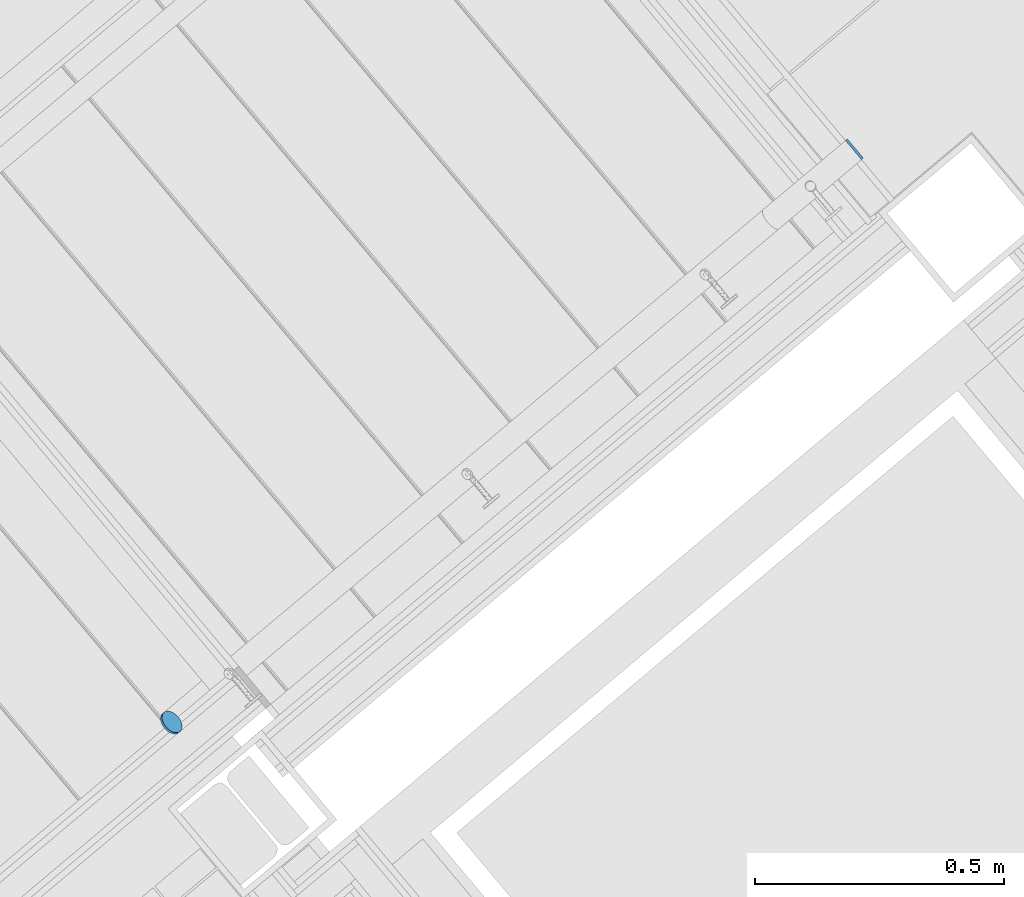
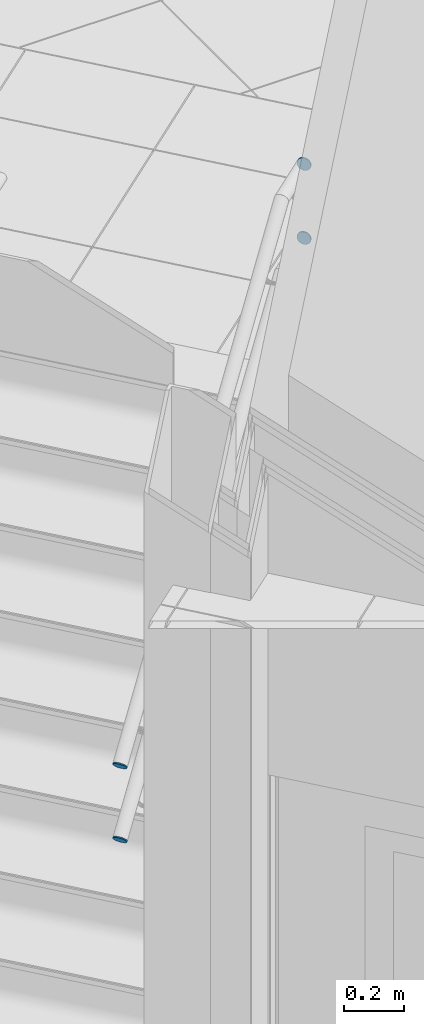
# One storey, part 2 of 338: 4 members, 2 elements without a shape of their own.
"""IFC2X3 building model written with IfcOpenShell, lengths in millimetres."""

from ifc_helpers import new_model, entity, si_unit, converted_unit, derived_unit, money_unit, direction, frame, origin_with_axes, place, context, subcontext, project, spatial, faceted_brep, source, transform, mapped, material, type_object, type_shapes, element, aggregate, save


model = new_model("IFC2X3")

# Units and contexts
model_context = context("Model", 3, precision=0.01, world=origin_with_axes(), true_north=direction((0.0, 1.0)))
plan_context = context("Plan", 3, precision=0.01, world=origin_with_axes(), true_north=direction((0.0, 1.0)))
body_context = subcontext(model_context, "Body", "Model", "MODEL_VIEW")
ifc_project = project(units=[si_unit("LENGTHUNIT", "METRE", prefix="MILLI"), si_unit("AREAUNIT", "SQUARE_METRE"), si_unit("VOLUMEUNIT", "CUBIC_METRE"), converted_unit("PLANEANGLEUNIT", "DEGREE", entity("IfcPlaneAngleMeasure", 0.0174532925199), si_unit("PLANEANGLEUNIT", "RADIAN"), dimensions=[0, 0, 0, 0, 0, 0, 0]), money_unit("EUR"), converted_unit("TIMEUNIT", "Year", entity("IfcTimeMeasure", 31556926.0), si_unit("TIMEUNIT", "SECOND"), dimensions=[0, 0, 1, 0, 0, 0, 0]), si_unit("MASSUNIT", "GRAM", prefix="KILO"), si_unit("THERMODYNAMICTEMPERATUREUNIT", "DEGREE_CELSIUS"), si_unit("LUMINOUSINTENSITYUNIT", "LUMEN"), si_unit("ENERGYUNIT", "JOULE", prefix="MEGA"), derived_unit("THERMALCONDUCTANCEUNIT", [(si_unit("POWERUNIT", "WATT"), 1), (si_unit("LENGTHUNIT", "METRE"), -1), (si_unit("THERMODYNAMICTEMPERATUREUNIT", "KELVIN"), -1)]), derived_unit("SPECIFICHEATCAPACITYUNIT", [(si_unit("ENERGYUNIT", "JOULE"), 1), (si_unit("MASSUNIT", "GRAM", prefix="KILO"), -1), (si_unit("THERMODYNAMICTEMPERATUREUNIT", "KELVIN"), -1)]), derived_unit("MASSDENSITYUNIT", [(si_unit("MASSUNIT", "GRAM", prefix="KILO"), 1), (si_unit("VOLUMEUNIT", "CUBIC_METRE"), -1)])], contexts=[model_context, plan_context])

# Site, building, storey
site_placement = place(None, origin_with_axes())
site = spatial("IfcSite", under=ifc_project, at=site_placement, Name="Fortuinstraat Woensdrecht", CompositionType="ELEMENT")
building_placement = place(site_placement, origin_with_axes())
building = spatial("IfcBuilding", under=site, at=building_placement, Name="IKC Fortuna", CompositionType="ELEMENT")
storey_placement = place(building_placement, origin_with_axes())
storey = spatial("IfcBuildingStorey", under=building, at=storey_placement, Name="00 begane grond", CompositionType="ELEMENT", Elevation=0.0)

# Railing, member
railing_type = type_object("IfcRailingType", Name="Railing Type", PredefinedType="NOTDEFINED")
railing_1_placement = place(storey_placement, frame((20422.3680821, 638.704533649, 2543.75), z_axis=(0.0, 0.0, 1.0), x_axis=(-0.173648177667, -0.984807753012, 0.0)))
railing_1 = element("IfcRailing", 1, at=railing_1_placement, inside=storey, type_object=railing_type, Name="_Reling_Reling-x", PredefinedType="NOTDEFINED")
ifc_material = material(Name="Hout AFW")
member_type = type_object("IfcMemberType", Name="IfcMember", PredefinedType="USERDEFINED")
shared_shape_1 = source(origin_with_axes(), body_context, "Body", "Brep", [
    faceted_brep([(-75.0, 15.6832384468, 880.531152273), (-75.3798061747, 12.9598726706, 883.911882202), (-75.3798061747, 9.06610312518, 880.775234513), (-75.0, 11.7894689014, 877.394504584), (-75.3798061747, 18.406604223, 877.150422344), (-76.5076844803, 21.0472219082, 873.872414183), (-78.3493649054, 23.5248576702, 870.796728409), (-80.848888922, 25.7642298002, 868.016818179), (-83.9303097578, 27.6972961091, 865.617149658), (-87.5, 29.2653213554, 863.670635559), (-91.4494964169, 30.4206618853, 862.236419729), (-95.6587955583, 31.1282132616, 861.358080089), (-100.0, 31.3664768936, 861.062304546), (-104.341204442, 31.1282132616, 861.358080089), (-108.550503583, 30.4206618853, 862.236419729), (-112.5, 29.2653213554, 863.670635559), (-116.069690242, 27.6972961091, 865.617149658), (-119.151111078, 25.7642298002, 868.016818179), (-121.650635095, 23.5248576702, 870.796728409), (-123.49231552, 21.0472219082, 873.872414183), (-124.620193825, 18.406604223, 877.150422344), (-125.0, 15.6832384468, 880.531152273), (-124.620193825, 12.9598726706, 883.911882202), (-123.49231552, 10.3192549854, 887.189890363), (-121.650635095, 7.84161922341, 890.265576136), (-119.151111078, 5.60224709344, 893.045486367), (-116.069690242, 3.66918078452, 895.445154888), (-112.5, 2.10115553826, 897.391668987), (-108.550503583, 0.945815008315, 898.825884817), (-104.341204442, 0.23826363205, 899.704224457), (-100.0, 0.0, 900.0), (-95.6587955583, 0.238263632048, 899.704224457), (-91.4494964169, 0.945815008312, 898.825884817), (-87.5, 2.10115553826, 897.391668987), (-83.9303097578, 3.66918078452, 895.445154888), (-80.848888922, 5.60224709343, 893.045486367), (-78.3493649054, 7.8416192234, 890.265576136), (-76.5076844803, 10.3192549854, 887.189890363), (-76.5076844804, 6.42548544, 884.053242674), (-78.3493649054, 3.94784967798, 887.128928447), (-80.848888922, 1.70847754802, 889.908838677), (-83.9303097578, -0.224588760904, 892.308507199), (-87.5, -1.79261400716, 894.255021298), (-91.4494964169, -2.94795453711, 895.689237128), (-95.6587955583, -3.65550591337, 896.567576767), (-100.0, -3.89376954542, 896.863352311), (-104.341204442, -3.65550591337, 896.567576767), (-108.550503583, -2.9479545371, 895.689237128), (-112.5, -1.79261400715, 894.255021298), (-116.069690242, -0.224588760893, 892.308507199), (-119.151111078, 1.70847754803, 889.908838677), (-121.650635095, 3.94784967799, 887.128928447), (-123.49231552, 6.42548544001, 884.053242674), (-124.620193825, 9.0661031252, 880.775234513), (-125.0, 11.7894689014, 877.394504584), (-124.620193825, 14.5128346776, 874.013774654), (-123.49231552, 17.1534523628, 870.735766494), (-121.650635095, 19.6310881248, 867.66008072), (-119.151111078, 21.8704602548, 864.88017049), (-116.069690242, 23.8035265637, 862.480501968), (-112.5, 25.3715518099, 860.533987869), (-108.550503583, 26.5268923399, 859.099772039), (-104.341204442, 27.2344437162, 858.2214324), (-100.0, 27.4727073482, 857.925656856), (-95.6587955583, 27.2344437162, 858.2214324), (-91.4494964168, 26.5268923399, 859.099772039), (-87.5, 25.3715518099, 860.533987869), (-83.9303097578, 23.8035265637, 862.480501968), (-80.848888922, 21.8704602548, 864.88017049), (-78.3493649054, 19.6310881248, 867.66008072), (-76.5076844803, 17.1534523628, 870.735766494), (-75.3798061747, 14.5128346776, 874.013774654)], [[[0, 1, 2, 3]], [[0, 4, 5, 6, 7, 8, 9, 10, 11, 12, 13, 14, 15, 16, 17, 18, 19, 20, 21, 22, 23, 24, 25, 26, 27, 28, 29, 30, 31, 32, 33, 34, 35, 36, 37, 1]], [[1, 37, 38, 2]], [[3, 2, 38, 39, 40, 41, 42, 43, 44, 45, 46, 47, 48, 49, 50, 51, 52, 53, 54, 55, 56, 57, 58, 59, 60, 61, 62, 63, 64, 65, 66, 67, 68, 69, 70, 71]], [[4, 0, 3, 71]], [[5, 4, 71, 70]], [[6, 5, 70, 69]], [[7, 6, 69, 68]], [[8, 7, 68, 67]], [[9, 8, 67, 66]], [[10, 9, 66, 65]], [[11, 10, 65, 64]], [[12, 11, 64, 63]], [[13, 12, 63, 62]], [[14, 13, 62, 61]], [[15, 14, 61, 60]], [[16, 15, 60, 59]], [[17, 16, 59, 58]], [[18, 17, 58, 57]], [[19, 18, 57, 56]], [[20, 19, 56, 55]], [[21, 20, 55, 54]], [[22, 21, 54, 53]], [[23, 22, 53, 52]], [[24, 23, 52, 51]], [[25, 24, 51, 50]], [[26, 25, 50, 49]], [[27, 26, 49, 48]], [[28, 27, 48, 47]], [[29, 28, 47, 46]], [[30, 29, 46, 45]], [[31, 30, 45, 44]], [[32, 31, 44, 43]], [[33, 32, 43, 42]], [[34, 33, 42, 41]], [[35, 34, 41, 40]], [[36, 35, 40, 39]], [[37, 36, 39, 38]]]),
])
member_1_placement = place(railing_1_placement, frame((0.0, 0.0, 0.0), z_axis=(0.0, 0.0, 1.0), x_axis=(-0.173648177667, 0.984807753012, 0.0)))
member_1 = element("IfcMember", 2, at=member_1_placement, type_object=member_type, material=ifc_material, Name="_Reling - regel_", context=body_context, shape_type="MappedRepresentation", body=[
    mapped(shared_shape_1, transform((24.6846981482, 95.050849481, 181.25), x_axis=(0.642787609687, -0.766044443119, 0.0), y_axis=(0.766044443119, 0.642787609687, 0.0), z_axis=(0.0, 0.0, 1.0))),
])

railing_2_placement = place(storey_placement, frame((20422.3680821, 638.704533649, 2243.75), z_axis=(0.0, 0.0, 1.0), x_axis=(-0.173648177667, -0.984807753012, 0.0)))
railing_2 = element("IfcRailing", 3, at=railing_2_placement, inside=storey, type_object=railing_type, Name="_Reling_Reling-x", PredefinedType="NOTDEFINED")
member_2_placement = place(railing_2_placement, frame((0.0, 0.0, 0.0), z_axis=(0.0, 0.0, 1.0), x_axis=(-0.173648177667, 0.984807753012, 0.0)))
member_2 = element("IfcMember", 4, at=member_2_placement, type_object=member_type, material=ifc_material, Name="_Reling - regel_", context=body_context, shape_type="MappedRepresentation", body=[
    mapped(shared_shape_1, transform((24.6846981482, 95.050849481, 181.25), x_axis=(0.642787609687, -0.766044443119, 0.0), y_axis=(0.766044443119, 0.642787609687, 0.0), z_axis=(0.0, 0.0, 1.0))),
])

# Member
shared_shape_2 = source(origin_with_axes(), body_context, "Body", "Brep", [
    faceted_brep([(-125.0, 0.0, 875.0), (-124.620193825, 0.0, 879.341204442), (-124.620193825, 4.99999999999, 879.341204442), (-125.0, 4.99999999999, 875.0), (-124.620193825, 0.0, 870.658795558), (-123.49231552, 0.0, 866.449496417), (-121.650635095, 0.0, 862.5), (-119.151111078, 0.0, 858.930309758), (-116.069690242, 0.0, 855.848888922), (-112.5, 0.0, 853.349364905), (-108.550503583, 0.0, 851.50768448), (-104.341204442, 0.0, 850.379806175), (-100.0, 0.0, 850.0), (-95.6587955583, 0.0, 850.379806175), (-91.4494964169, 0.0, 851.50768448), (-87.5, 0.0, 853.349364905), (-83.9303097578, 0.0, 855.848888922), (-80.848888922, 0.0, 858.930309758), (-78.3493649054, 0.0, 862.5), (-76.5076844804, 0.0, 866.449496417), (-75.3798061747, 0.0, 870.658795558), (-75.0, 0.0, 875.0), (-75.3798061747, 0.0, 879.341204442), (-76.5076844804, 0.0, 883.550503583), (-78.3493649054, 0.0, 887.5), (-80.848888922, 0.0, 891.069690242), (-83.9303097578, 0.0, 894.151111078), (-87.5, 0.0, 896.650635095), (-91.4494964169, 0.0, 898.49231552), (-95.6587955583, 0.0, 899.620193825), (-100.0, 0.0, 900.0), (-104.341204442, 0.0, 899.620193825), (-108.550503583, 0.0, 898.49231552), (-112.5, 0.0, 896.650635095), (-116.069690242, 0.0, 894.151111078), (-119.151111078, 0.0, 891.069690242), (-121.650635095, 0.0, 887.5), (-123.49231552, 0.0, 883.550503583), (-123.49231552, 4.99999999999, 883.550503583), (-121.650635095, 4.99999999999, 887.5), (-119.151111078, 5.0, 891.069690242), (-116.069690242, 5.0, 894.151111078), (-112.5, 5.0, 896.650635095), (-108.550503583, 5.0, 898.49231552), (-104.341204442, 5.0, 899.620193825), (-100.0, 5.0, 900.0), (-95.6587955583, 5.0, 899.620193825), (-91.4494964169, 5.0, 898.49231552), (-87.5, 5.0, 896.650635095), (-83.9303097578, 5.0, 894.151111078), (-80.848888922, 5.0, 891.069690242), (-78.3493649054, 5.0, 887.5), (-76.5076844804, 5.0, 883.550503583), (-75.3798061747, 5.0, 879.341204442), (-75.0, 5.0, 875.0), (-75.3798061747, 5.0, 870.658795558), (-76.5076844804, 5.0, 866.449496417), (-78.3493649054, 5.0, 862.5), (-80.848888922, 5.0, 858.930309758), (-83.9303097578, 5.0, 855.848888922), (-87.5, 5.0, 853.349364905), (-91.4494964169, 5.0, 851.50768448), (-95.6587955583, 5.0, 850.379806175), (-100.0, 5.0, 850.0), (-104.341204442, 5.0, 850.379806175), (-108.550503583, 5.0, 851.50768448), (-112.5, 5.0, 853.349364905), (-116.069690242, 5.0, 855.848888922), (-119.151111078, 5.0, 858.930309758), (-121.650635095, 4.99999999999, 862.5), (-123.49231552, 4.99999999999, 866.449496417), (-124.620193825, 4.99999999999, 870.658795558)], [[[0, 1, 2, 3]], [[0, 4, 5, 6, 7, 8, 9, 10, 11, 12, 13, 14, 15, 16, 17, 18, 19, 20, 21, 22, 23, 24, 25, 26, 27, 28, 29, 30, 31, 32, 33, 34, 35, 36, 37, 1]], [[1, 37, 38, 2]], [[3, 2, 38, 39, 40, 41, 42, 43, 44, 45, 46, 47, 48, 49, 50, 51, 52, 53, 54, 55, 56, 57, 58, 59, 60, 61, 62, 63, 64, 65, 66, 67, 68, 69, 70, 71]], [[4, 0, 3, 71]], [[5, 4, 71, 70]], [[6, 5, 70, 69]], [[7, 6, 69, 68]], [[8, 7, 68, 67]], [[9, 8, 67, 66]], [[10, 9, 66, 65]], [[11, 10, 65, 64]], [[12, 11, 64, 63]], [[13, 12, 63, 62]], [[14, 13, 62, 61]], [[15, 14, 61, 60]], [[16, 15, 60, 59]], [[17, 16, 59, 58]], [[18, 17, 58, 57]], [[19, 18, 57, 56]], [[20, 19, 56, 55]], [[21, 20, 55, 54]], [[22, 21, 54, 53]], [[23, 22, 53, 52]], [[24, 23, 52, 51]], [[25, 24, 51, 50]], [[26, 25, 50, 49]], [[27, 26, 49, 48]], [[28, 27, 48, 47]], [[29, 28, 47, 46]], [[30, 29, 46, 45]], [[31, 30, 45, 44]], [[32, 31, 44, 43]], [[33, 32, 43, 42]], [[34, 33, 42, 41]], [[35, 34, 41, 40]], [[36, 35, 40, 39]], [[37, 36, 39, 38]]]),
])
type_shapes(member_type, [shared_shape_1, shared_shape_2])
member_3_placement = place(railing_1_placement, frame((0.0, 0.0, 0.0), z_axis=(0.0, 0.0, 1.0), x_axis=(-0.173648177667, 0.984807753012, 0.0)))
member_3 = element("IfcMember", 5, at=member_3_placement, type_object=member_type, material=ifc_material, Name="_Reling - regel_", context=body_context, shape_type="MappedRepresentation", body=[
    mapped(shared_shape_2, transform((1403.56469576, 1252.06854692, 1450.0), x_axis=(0.642787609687, -0.766044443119, 0.0), y_axis=(0.766044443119, 0.642787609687, 0.0), z_axis=(0.0, 0.0, 1.0))),
])

aggregate(railing_1, [member_1, member_3])

member_4_placement = place(railing_2_placement, frame((0.0, 0.0, 0.0), z_axis=(0.0, 0.0, 1.0), x_axis=(-0.173648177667, 0.984807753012, 0.0)))
member_4 = element("IfcMember", 6, at=member_4_placement, type_object=member_type, material=ifc_material, Name="_Reling - regel_", context=body_context, shape_type="MappedRepresentation", body=[
    mapped(shared_shape_2, transform((1403.56469576, 1252.06854692, 1450.0), x_axis=(0.642787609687, -0.766044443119, 0.0), y_axis=(0.766044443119, 0.642787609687, 0.0), z_axis=(0.0, 0.0, 1.0))),
])

aggregate(railing_2, [member_2, member_4])

save(model, "model.ifc")
